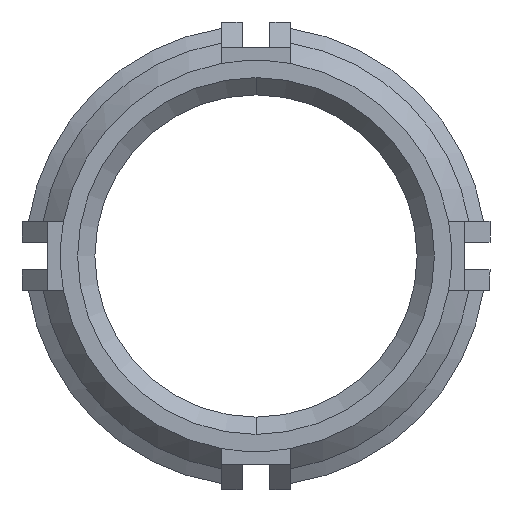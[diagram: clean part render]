
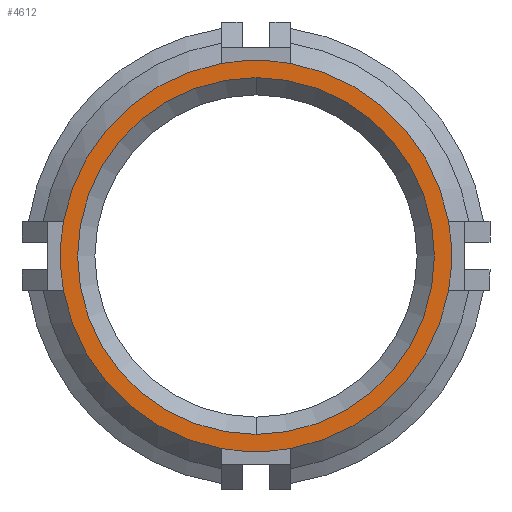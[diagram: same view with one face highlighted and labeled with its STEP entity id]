
A CAD part, front view. The second image highlights one B-rep face of the part: STEP entity #4612.
In plain terms, the highlighted planar face has unit normal (0, -1, 0).
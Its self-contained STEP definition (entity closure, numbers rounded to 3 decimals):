
#72 = EDGE_LOOP ( 'NONE', ( #3849, #4038 ) ) ;
#146 = VERTEX_POINT ( 'NONE', #6302 ) ;
#282 = DIRECTION ( 'NONE',  ( 0., 0., 1. ) ) ;
#289 = CARTESIAN_POINT ( 'NONE',  ( -8.367, -20., 1.5 ) ) ;
#306 = AXIS2_PLACEMENT_3D ( 'NONE', #5921, #4372, #4332 ) ;
#390 = CARTESIAN_POINT ( 'NONE',  ( 0., -20., 0. ) ) ;
#439 = CARTESIAN_POINT ( 'NONE',  ( -8.367, -20., -1.5 ) ) ;
#514 = ORIENTED_EDGE ( 'NONE', *, *, #3785, .T. ) ;
#563 = CARTESIAN_POINT ( 'NONE',  ( 0., -20., 0. ) ) ;
#720 = CIRCLE ( 'NONE', #2769, 8.5 ) ;
#865 = DIRECTION ( 'NONE',  ( 0., -1., 0. ) ) ;
#889 = EDGE_CURVE ( 'NONE', #2977, #5830, #6179, .T. ) ;
#898 = CARTESIAN_POINT ( 'NONE',  ( 0., -20., 0. ) ) ;
#926 = CARTESIAN_POINT ( 'NONE',  ( 0., -20., 7.75 ) ) ;
#1258 = CARTESIAN_POINT ( 'NONE',  ( 0., -20., 0. ) ) ;
#1351 = DIRECTION ( 'NONE',  ( 0., 0., 1. ) ) ;
#1382 = ORIENTED_EDGE ( 'NONE', *, *, #889, .T. ) ;
#1474 = ORIENTED_EDGE ( 'NONE', *, *, #2159, .T. ) ;
#1526 = DIRECTION ( 'NONE',  ( 0., -1., 0. ) ) ;
#1589 = AXIS2_PLACEMENT_3D ( 'NONE', #563, #4657, #2125 ) ;
#1792 = DIRECTION ( 'NONE',  ( 0., 1., 0. ) ) ;
#1877 = CARTESIAN_POINT ( 'NONE',  ( 0., -20., -7.75 ) ) ;
#1996 = DIRECTION ( 'NONE',  ( 0., -1., 0. ) ) ;
#2125 = DIRECTION ( 'NONE',  ( 0., 0., 1. ) ) ;
#2130 = AXIS2_PLACEMENT_3D ( 'NONE', #3030, #1526, #4058 ) ;
#2159 = EDGE_CURVE ( 'NONE', #4840, #5356, #720, .T. ) ;
#2167 = ORIENTED_EDGE ( 'NONE', *, *, #3151, .T. ) ;
#2222 = VERTEX_POINT ( 'NONE', #926 ) ;
#2274 = DIRECTION ( 'NONE',  ( 0., 0., 1. ) ) ;
#2286 = PLANE ( 'NONE',  #3337 ) ;
#2386 = AXIS2_PLACEMENT_3D ( 'NONE', #3898, #3392, #1351 ) ;
#2393 = CARTESIAN_POINT ( 'NONE',  ( -1.5, -20., 8.367 ) ) ;
#2443 = ORIENTED_EDGE ( 'NONE', *, *, #5500, .T. ) ;
#2447 = CARTESIAN_POINT ( 'NONE',  ( 1.5, -20., -8.367 ) ) ;
#2525 = DIRECTION ( 'NONE',  ( 0., 0., 1. ) ) ;
#2769 = AXIS2_PLACEMENT_3D ( 'NONE', #3144, #5668, #5142 ) ;
#2977 = VERTEX_POINT ( 'NONE', #2447 ) ;
#3030 = CARTESIAN_POINT ( 'NONE',  ( 0., -20., 0. ) ) ;
#3144 = CARTESIAN_POINT ( 'NONE',  ( 0., -20., 0. ) ) ;
#3151 = EDGE_CURVE ( 'NONE', #4114, #4840, #3195, .T. ) ;
#3195 = CIRCLE ( 'NONE', #4029, 8.5 ) ;
#3263 = CARTESIAN_POINT ( 'NONE',  ( 0., -20., 0. ) ) ;
#3337 = AXIS2_PLACEMENT_3D ( 'NONE', #1258, #3787, #282 ) ;
#3392 = DIRECTION ( 'NONE',  ( 0., -1., 0. ) ) ;
#3425 = DIRECTION ( 'NONE',  ( -1., 0., 0. ) ) ;
#3637 = CARTESIAN_POINT ( 'NONE',  ( 8.367, -20., -1.5 ) ) ;
#3785 = EDGE_CURVE ( 'NONE', #5830, #4419, #5113, .T. ) ;
#3787 = DIRECTION ( 'NONE',  ( 0., 1., 0. ) ) ;
#3849 = ORIENTED_EDGE ( 'NONE', *, *, #6406, .T. ) ;
#3898 = CARTESIAN_POINT ( 'NONE',  ( 0., -20., 0. ) ) ;
#3963 = DIRECTION ( 'NONE',  ( 1., 0., 0. ) ) ;
#3992 = ORIENTED_EDGE ( 'NONE', *, *, #4094, .T. ) ;
#4008 = EDGE_CURVE ( 'NONE', #2222, #4088, #6381, .T. ) ;
#4029 = AXIS2_PLACEMENT_3D ( 'NONE', #5074, #1996, #2525 ) ;
#4038 = ORIENTED_EDGE ( 'NONE', *, *, #4008, .T. ) ;
#4058 = DIRECTION ( 'NONE',  ( 0., 0., -1. ) ) ;
#4088 = VERTEX_POINT ( 'NONE', #1877 ) ;
#4094 = EDGE_CURVE ( 'NONE', #5356, #2977, #4865, .T. ) ;
#4114 = VERTEX_POINT ( 'NONE', #289 ) ;
#4144 = VERTEX_POINT ( 'NONE', #2393 ) ;
#4332 = DIRECTION ( 'NONE',  ( 0., 0., 1. ) ) ;
#4372 = DIRECTION ( 'NONE',  ( 0., -1., 0. ) ) ;
#4419 = VERTEX_POINT ( 'NONE', #6276 ) ;
#4524 = DIRECTION ( 'NONE',  ( 0., -1., 0. ) ) ;
#4537 = AXIS2_PLACEMENT_3D ( 'NONE', #3263, #1792, #2274 ) ;
#4612 = ADVANCED_FACE ( 'NONE', ( #6221, #5349 ), #2286, .F. ) ;
#4651 = CARTESIAN_POINT ( 'NONE',  ( -1.5, -20., -8.367 ) ) ;
#4657 = DIRECTION ( 'NONE',  ( 0., 1., 0. ) ) ;
#4741 = EDGE_CURVE ( 'NONE', #4419, #146, #4781, .T. ) ;
#4781 = CIRCLE ( 'NONE', #5397, 8.5 ) ;
#4840 = VERTEX_POINT ( 'NONE', #439 ) ;
#4865 = CIRCLE ( 'NONE', #6042, 8.5 ) ;
#4931 = ORIENTED_EDGE ( 'NONE', *, *, #6234, .T. ) ;
#5074 = CARTESIAN_POINT ( 'NONE',  ( 0., -20., 0. ) ) ;
#5113 = CIRCLE ( 'NONE', #2130, 8.5 ) ;
#5142 = DIRECTION ( 'NONE',  ( 0., 0., 1. ) ) ;
#5197 = ORIENTED_EDGE ( 'NONE', *, *, #4741, .T. ) ;
#5349 = FACE_OUTER_BOUND ( 'NONE', #6516, .T. ) ;
#5356 = VERTEX_POINT ( 'NONE', #4651 ) ;
#5397 = AXIS2_PLACEMENT_3D ( 'NONE', #5942, #865, #6541 ) ;
#5410 = CIRCLE ( 'NONE', #306, 8.5 ) ;
#5500 = EDGE_CURVE ( 'NONE', #4144, #4114, #5410, .T. ) ;
#5651 = CIRCLE ( 'NONE', #6603, 8.5 ) ;
#5668 = DIRECTION ( 'NONE',  ( 0., -1., 0. ) ) ;
#5830 = VERTEX_POINT ( 'NONE', #3637 ) ;
#5921 = CARTESIAN_POINT ( 'NONE',  ( 0., -20., 0. ) ) ;
#5942 = CARTESIAN_POINT ( 'NONE',  ( 0., -20., 0. ) ) ;
#6042 = AXIS2_PLACEMENT_3D ( 'NONE', #898, #6439, #3425 ) ;
#6137 = CIRCLE ( 'NONE', #1589, 7.75 ) ;
#6179 = CIRCLE ( 'NONE', #2386, 8.5 ) ;
#6221 = FACE_BOUND ( 'NONE', #72, .T. ) ;
#6234 = EDGE_CURVE ( 'NONE', #146, #4144, #5651, .T. ) ;
#6276 = CARTESIAN_POINT ( 'NONE',  ( 8.367, -20., 1.5 ) ) ;
#6302 = CARTESIAN_POINT ( 'NONE',  ( 1.5, -20., 8.367 ) ) ;
#6381 = CIRCLE ( 'NONE', #4537, 7.75 ) ;
#6406 = EDGE_CURVE ( 'NONE', #4088, #2222, #6137, .T. ) ;
#6439 = DIRECTION ( 'NONE',  ( 0., -1., 0. ) ) ;
#6516 = EDGE_LOOP ( 'NONE', ( #2167, #1474, #3992, #1382, #514, #5197, #4931, #2443 ) ) ;
#6541 = DIRECTION ( 'NONE',  ( 0., 0., 1. ) ) ;
#6603 = AXIS2_PLACEMENT_3D ( 'NONE', #390, #4524, #3963 ) ;
